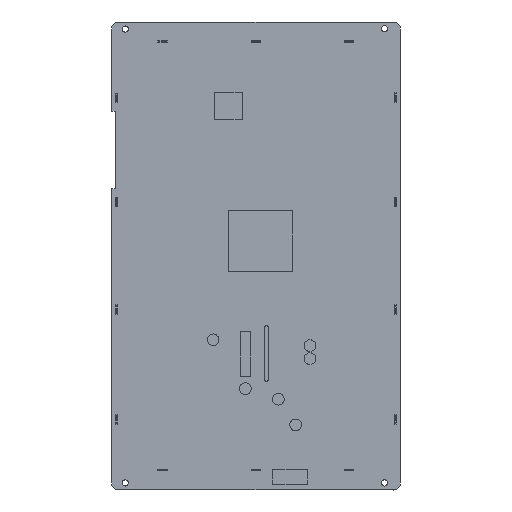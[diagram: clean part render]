
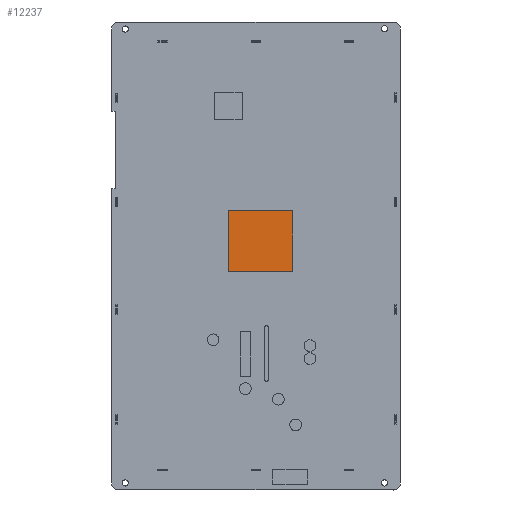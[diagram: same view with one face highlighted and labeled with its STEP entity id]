
A CAD part, top view. The second image highlights one B-rep face of the part: STEP entity #12237.
In plain terms, the highlighted planar face has unit normal (0, 0, 1).
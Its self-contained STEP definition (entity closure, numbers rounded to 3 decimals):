
#3829=DIRECTION('',(-1.,0.,0.));
#3830=VECTOR('',#3829,34.417);
#3831=CARTESIAN_POINT('',(20.434,24.34,5.2));
#3832=LINE('',#3831,#3830);
#3833=DIRECTION('',(0.,1.,0.));
#3834=VECTOR('',#3833,32.766);
#3835=CARTESIAN_POINT('',(20.434,-8.426,5.2));
#3836=LINE('',#3835,#3834);
#3837=DIRECTION('',(1.,0.,0.));
#3838=VECTOR('',#3837,34.417);
#3839=CARTESIAN_POINT('',(-13.983,-8.426,5.2));
#3840=LINE('',#3839,#3838);
#3841=DIRECTION('',(0.,-1.,0.));
#3842=VECTOR('',#3841,32.766);
#3843=CARTESIAN_POINT('',(-13.983,24.34,5.2));
#3844=LINE('',#3843,#3842);
#4305=CARTESIAN_POINT('',(20.434,24.34,5.2));
#4306=CARTESIAN_POINT('',(-13.983,24.34,5.2));
#4307=VERTEX_POINT('',#4305);
#4308=VERTEX_POINT('',#4306);
#4309=CARTESIAN_POINT('',(-13.983,-8.426,5.2));
#4310=VERTEX_POINT('',#4309);
#4311=CARTESIAN_POINT('',(20.434,-8.426,5.2));
#4312=VERTEX_POINT('',#4311);
#12226=CARTESIAN_POINT('',(-77.051,36.1,5.2));
#12227=DIRECTION('',(0.,0.,1.));
#12228=DIRECTION('',(0.,-1.,0.));
#12229=AXIS2_PLACEMENT_3D('',#12226,#12227,#12228);
#12230=PLANE('',#12229);
#12231=ORIENTED_EDGE('',*,*,#12150,.F.);
#12232=ORIENTED_EDGE('',*,*,#12172,.F.);
#12233=ORIENTED_EDGE('',*,*,#12193,.F.);
#12234=ORIENTED_EDGE('',*,*,#12213,.F.);
#12235=EDGE_LOOP('',(#12231,#12232,#12233,#12234));
#12236=FACE_OUTER_BOUND('',#12235,.F.);
#12150=EDGE_CURVE('',#4307,#4308,#3832,.T.);
#12172=EDGE_CURVE('',#4312,#4307,#3836,.T.);
#12193=EDGE_CURVE('',#4310,#4312,#3840,.T.);
#12213=EDGE_CURVE('',#4308,#4310,#3844,.T.);
#12237=ADVANCED_FACE('',(#12236),#12230,.T.);
